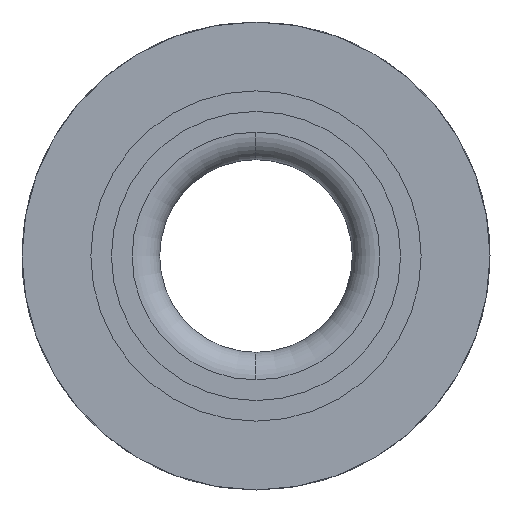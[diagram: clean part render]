
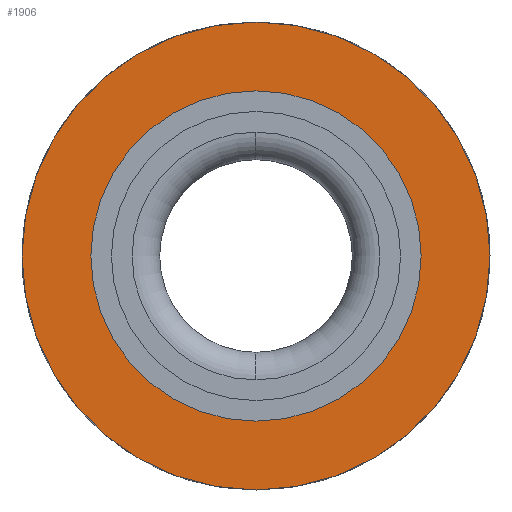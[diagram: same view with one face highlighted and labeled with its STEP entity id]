
A CAD part, front view. The second image highlights one B-rep face of the part: STEP entity #1906.
In plain terms, the highlighted planar face has unit normal (0, -1, 0).
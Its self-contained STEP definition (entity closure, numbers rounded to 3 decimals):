
#348 = CIRCLE ( 'NONE', #360, 8.5 ) ;
#354 = DIRECTION ( 'NONE',  ( 0., -1., 0. ) ) ;
#355 = CARTESIAN_POINT ( 'NONE',  ( 5619.857, 3081.454, 0. ) ) ;
#359 = CARTESIAN_POINT ( 'NONE',  ( 5619.857, 3081.454, 8.5 ) ) ;
#360 = AXIS2_PLACEMENT_3D ( 'NONE', #355, #354, #399 ) ;
#367 = CIRCLE ( 'NONE', #385, 5.25 ) ;
#378 = CARTESIAN_POINT ( 'NONE',  ( 5619.857, 3081.454, 0. ) ) ;
#384 = DIRECTION ( 'NONE',  ( 0., 0., -1. ) ) ;
#385 = AXIS2_PLACEMENT_3D ( 'NONE', #378, #441, #384 ) ;
#399 = DIRECTION ( 'NONE',  ( 0., 0., -1. ) ) ;
#429 = CARTESIAN_POINT ( 'NONE',  ( 5619.857, 3081.454, 5.25 ) ) ;
#441 = DIRECTION ( 'NONE',  ( 0., -1., 0. ) ) ;
#442 = CARTESIAN_POINT ( 'NONE',  ( 5619.857, 3081.454, -5.25 ) ) ;
#479 = CARTESIAN_POINT ( 'NONE',  ( 5619.857, 3081.454, -8.5 ) ) ;
#486 = DIRECTION ( 'NONE',  ( 0., 0., 1. ) ) ;
#503 = AXIS2_PLACEMENT_3D ( 'NONE', #529, #507, #486 ) ;
#504 = PLANE ( 'NONE',  #503 ) ;
#506 = FACE_OUTER_BOUND ( 'NONE', #1462, .T. ) ;
#507 = DIRECTION ( 'NONE',  ( 0., 1., 0. ) ) ;
#529 = CARTESIAN_POINT ( 'NONE',  ( 5611.357, 3081.454, 0. ) ) ;
#531 = FACE_BOUND ( 'NONE', #1680, .T. ) ;
#584 = AXIS2_PLACEMENT_3D ( 'NONE', #611, #615, #637 ) ;
#585 = CIRCLE ( 'NONE', #584, 8.5 ) ;
#611 = CARTESIAN_POINT ( 'NONE',  ( 5619.857, 3081.454, 0. ) ) ;
#615 = DIRECTION ( 'NONE',  ( 0., -1., 0. ) ) ;
#637 = DIRECTION ( 'NONE',  ( 0., 0., -1. ) ) ;
#1462 = EDGE_LOOP ( 'NONE', ( #1463, #1465 ) ) ;
#1463 = ORIENTED_EDGE ( 'NONE', *, *, #1939, .T. ) ;
#1465 = ORIENTED_EDGE ( 'NONE', *, *, #1948, .T. ) ;
#1579 = EDGE_CURVE ( 'NONE', #1676, #1699, #3032, .T. ) ;
#1630 = ORIENTED_EDGE ( 'NONE', *, *, #1579, .F. ) ;
#1652 = ORIENTED_EDGE ( 'NONE', *, *, #1698, .F. ) ;
#1676 = VERTEX_POINT ( 'NONE', #429 ) ;
#1680 = EDGE_LOOP ( 'NONE', ( #1652, #1630 ) ) ;
#1698 = EDGE_CURVE ( 'NONE', #1699, #1676, #367, .T. ) ;
#1699 = VERTEX_POINT ( 'NONE', #442 ) ;
#1869 = VERTEX_POINT ( 'NONE', #359 ) ;
#1901 = VERTEX_POINT ( 'NONE', #479 ) ;
#1906 = ADVANCED_FACE ( 'NONE', ( #531, #506 ), #504, .F. ) ;
#1939 = EDGE_CURVE ( 'NONE', #1901, #1869, #348, .T. ) ;
#1948 = EDGE_CURVE ( 'NONE', #1869, #1901, #585, .T. ) ;
#3025 = CARTESIAN_POINT ( 'NONE',  ( 5619.857, 3081.454, 0. ) ) ;
#3032 = CIRCLE ( 'NONE', #3066, 5.25 ) ;
#3043 = DIRECTION ( 'NONE',  ( 0., 0., -1. ) ) ;
#3044 = DIRECTION ( 'NONE',  ( 0., -1., 0. ) ) ;
#3066 = AXIS2_PLACEMENT_3D ( 'NONE', #3025, #3044, #3043 ) ;
